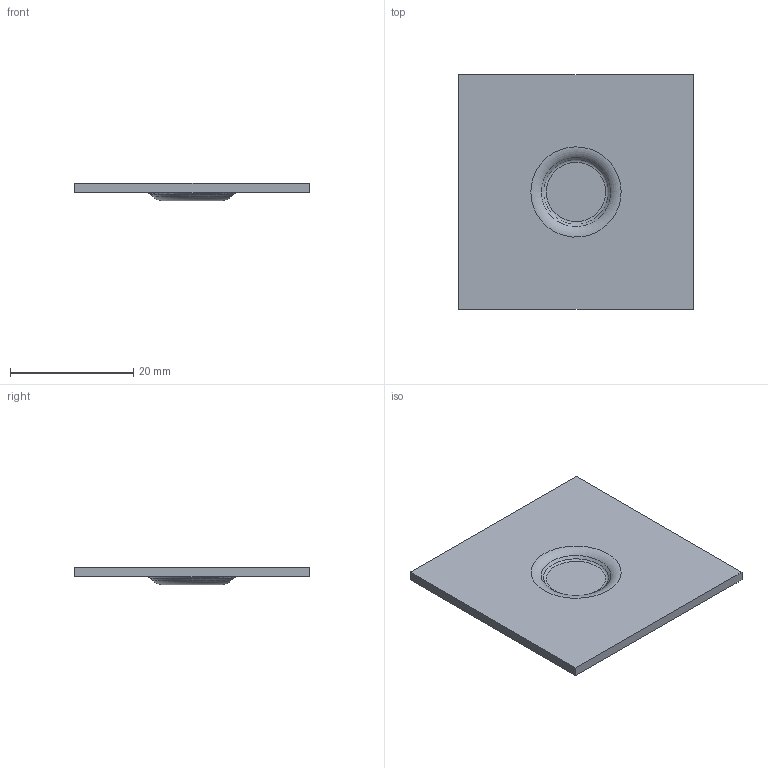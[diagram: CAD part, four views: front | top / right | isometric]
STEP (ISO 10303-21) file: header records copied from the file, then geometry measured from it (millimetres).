
FILE_DESCRIPTION((''),'1');
FILE_NAME('C:/Users/robertnolte/Desktop/TOOL FOR 441-2686-00 REV 03.stp', '2013-08-09T19:58:22',(''), (''), 'KCM Version 1.1.713.0', 'Kubotek KeyCreator', '');
FILE_SCHEMA(('AUTOMOTIVE_DESIGN'));
Length unit declared in the file: inch
Bounding box: 38.1 x 38.1 x 2.79 mm (x, y, z)
Volume: 2235.2 mm3; surface area: 3165.6 mm2
Topology: 1 solids, 1 shells, 14 faces, 34 edges, 24 vertices
Faces by surface type: plane 8, torus 4, cone 2
Entity records: 415 total; most frequent: DIRECTION 68, ORIENTED_EDGE 68, CARTESIAN_POINT 65, EDGE_CURVE 34, AXIS2_PLACEMENT_3D 27, VERTEX_POINT 24, EDGE_LOOP 16, VECTOR 14
